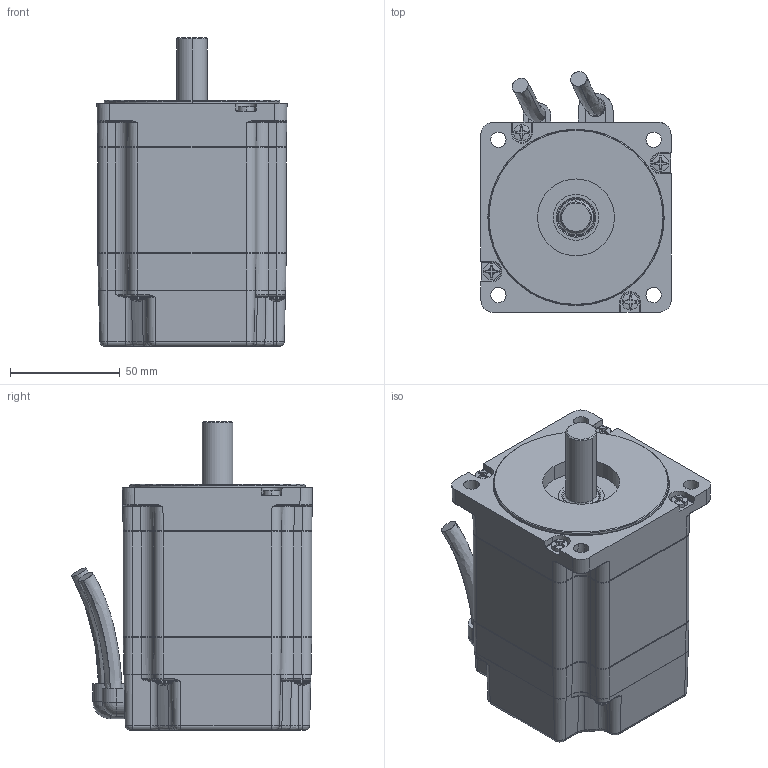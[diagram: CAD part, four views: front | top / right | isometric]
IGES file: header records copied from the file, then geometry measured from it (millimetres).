
Start section:  PTC IGES file: vlm31c.igs
Global section: file name: vlm31c.igs; native system: Pro/ENGINEER by Parametric Technology Corporation; preprocessor: 2006510; author: Ray.Dobbins; organization: Unknown; date: 20110726.104944; units: inch
Bounding box: 86.56 x 109.74 x 140.45 mm (x, y, z)
Surface area: 181208.7 mm2 (no closed solid volume)
Topology: 0 solids, 0 shells, 2227 faces, 12023 edges, 12013 vertices
Faces by surface type: revolution 1334, bspline 893
